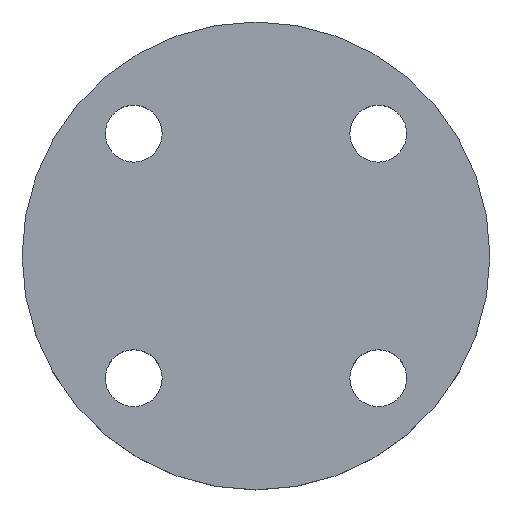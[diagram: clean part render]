
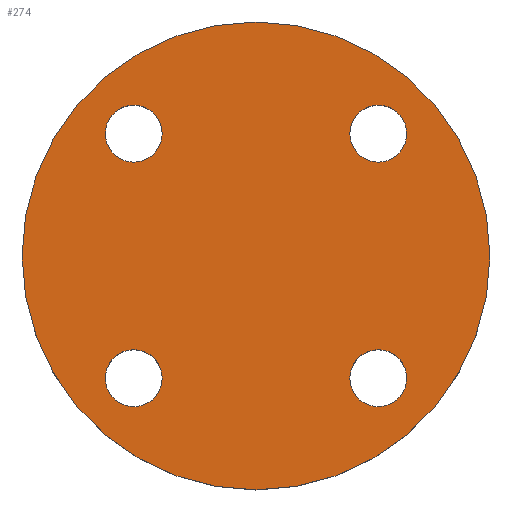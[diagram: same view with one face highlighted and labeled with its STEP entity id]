
A CAD part, top view. The second image highlights one B-rep face of the part: STEP entity #274.
In plain terms, the highlighted planar face has unit normal (0, 0, 1).
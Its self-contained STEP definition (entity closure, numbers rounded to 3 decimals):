
#3 = CIRCLE ( 'NONE', #5, 7. ) ;
#5 = AXIS2_PLACEMENT_3D ( 'NONE', #566, #567, #568 ) ;
#17 = AXIS2_PLACEMENT_3D ( 'NONE', #534, #535, #536 ) ;
#29 = CIRCLE ( 'NONE', #103, 7. ) ;
#47 = EDGE_CURVE ( 'NONE', #189, #183, #137, .T. ) ;
#52 = AXIS2_PLACEMENT_3D ( 'NONE', #432, #445, #446 ) ;
#53 = CIRCLE ( 'NONE', #52, 57.5 ) ;
#60 = EDGE_CURVE ( 'NONE', #242, #198, #444, .T. ) ;
#75 = CIRCLE ( 'NONE', #81, 7. ) ;
#81 = AXIS2_PLACEMENT_3D ( 'NONE', #95, #96, #98 ) ;
#87 = EDGE_CURVE ( 'NONE', #199, #319, #150, .T. ) ;
#95 = CARTESIAN_POINT ( 'NONE',  ( 30.052, 30.052, 0. ) ) ;
#96 = DIRECTION ( 'NONE',  ( 0., 0., -1. ) ) ;
#98 = DIRECTION ( 'NONE',  ( -1., 0., 0. ) ) ;
#103 = AXIS2_PLACEMENT_3D ( 'NONE', #420, #421, #422 ) ;
#133 = EDGE_CURVE ( 'NONE', #183, #189, #29, .T. ) ;
#137 = CIRCLE ( 'NONE', #256, 7. ) ;
#147 = EDGE_CURVE ( 'NONE', #334, #177, #53, .T. ) ;
#150 = CIRCLE ( 'NONE', #151, 7. ) ;
#151 = AXIS2_PLACEMENT_3D ( 'NONE', #407, #408, #409 ) ;
#153 = CIRCLE ( 'NONE', #17, 7. ) ;
#160 = AXIS2_PLACEMENT_3D ( 'NONE', #396, #397, #398 ) ;
#165 = AXIS2_PLACEMENT_3D ( 'NONE', #527, #528, #530 ) ;
#166 = AXIS2_PLACEMENT_3D ( 'NONE', #517, #518, #519 ) ;
#173 = CIRCLE ( 'NONE', #166, 57.5 ) ;
#177 = VERTEX_POINT ( 'NONE', #483 ) ;
#183 = VERTEX_POINT ( 'NONE', #485 ) ;
#189 = VERTEX_POINT ( 'NONE', #489 ) ;
#198 = VERTEX_POINT ( 'NONE', #494 ) ;
#199 = VERTEX_POINT ( 'NONE', #495 ) ;
#205 = AXIS2_PLACEMENT_3D ( 'NONE', #497, #498, #499 ) ;
#213 = EDGE_CURVE ( 'NONE', #342, #346, #214, .T. ) ;
#214 = CIRCLE ( 'NONE', #205, 7. ) ;
#242 = VERTEX_POINT ( 'NONE', #515 ) ;
#245 = EDGE_CURVE ( 'NONE', #177, #334, #173, .T. ) ;
#254 = ORIENTED_EDGE ( 'NONE', *, *, #213, .T. ) ;
#255 = ORIENTED_EDGE ( 'NONE', *, *, #288, .T. ) ;
#256 = AXIS2_PLACEMENT_3D ( 'NONE', #381, #382, #383 ) ;
#257 = ORIENTED_EDGE ( 'NONE', *, *, #133, .T. ) ;
#258 = ORIENTED_EDGE ( 'NONE', *, *, #47, .T. ) ;
#259 = ORIENTED_EDGE ( 'NONE', *, *, #369, .T. ) ;
#261 = ORIENTED_EDGE ( 'NONE', *, *, #87, .T. ) ;
#262 = ORIENTED_EDGE ( 'NONE', *, *, #60, .T. ) ;
#263 = ORIENTED_EDGE ( 'NONE', *, *, #529, .T. ) ;
#265 = ORIENTED_EDGE ( 'NONE', *, *, #147, .T. ) ;
#266 = ORIENTED_EDGE ( 'NONE', *, *, #245, .T. ) ;
#274 = ADVANCED_FACE ( 'NONE', ( #521, #522, #523, #524, #525 ), #526, .T. ) ;
#279 = EDGE_LOOP ( 'NONE', ( #265, #266 ) ) ;
#288 = EDGE_CURVE ( 'NONE', #346, #342, #153, .T. ) ;
#319 = VERTEX_POINT ( 'NONE', #548 ) ;
#321 = EDGE_LOOP ( 'NONE', ( #262, #263 ) ) ;
#334 = VERTEX_POINT ( 'NONE', #559 ) ;
#338 = EDGE_LOOP ( 'NONE', ( #259, #261 ) ) ;
#340 = EDGE_LOOP ( 'NONE', ( #257, #258 ) ) ;
#342 = VERTEX_POINT ( 'NONE', #564 ) ;
#343 = EDGE_LOOP ( 'NONE', ( #254, #255 ) ) ;
#346 = VERTEX_POINT ( 'NONE', #565 ) ;
#369 = EDGE_CURVE ( 'NONE', #319, #199, #3, .T. ) ;
#381 = CARTESIAN_POINT ( 'NONE',  ( -30.052, -30.052, 0. ) ) ;
#382 = DIRECTION ( 'NONE',  ( 0., 0., -1. ) ) ;
#383 = DIRECTION ( 'NONE',  ( -1., 0., 0. ) ) ;
#396 = CARTESIAN_POINT ( 'NONE',  ( 30.052, 30.052, 0. ) ) ;
#397 = DIRECTION ( 'NONE',  ( 0., 0., -1. ) ) ;
#398 = DIRECTION ( 'NONE',  ( -1., 0., 0. ) ) ;
#407 = CARTESIAN_POINT ( 'NONE',  ( -30.052, 30.052, 0. ) ) ;
#408 = DIRECTION ( 'NONE',  ( 0., 0., -1. ) ) ;
#409 = DIRECTION ( 'NONE',  ( -1., 0., 0. ) ) ;
#420 = CARTESIAN_POINT ( 'NONE',  ( -30.052, -30.052, 0. ) ) ;
#421 = DIRECTION ( 'NONE',  ( 0., 0., -1. ) ) ;
#422 = DIRECTION ( 'NONE',  ( -1., 0., 0. ) ) ;
#432 = CARTESIAN_POINT ( 'NONE',  ( 0., 0., 0. ) ) ;
#444 = CIRCLE ( 'NONE', #160, 7. ) ;
#445 = DIRECTION ( 'NONE',  ( 0., 0., 1. ) ) ;
#446 = DIRECTION ( 'NONE',  ( 1., 0., 0. ) ) ;
#483 = CARTESIAN_POINT ( 'NONE',  ( -57.5, 0., 0. ) ) ;
#485 = CARTESIAN_POINT ( 'NONE',  ( -23.052, -30.052, 0. ) ) ;
#489 = CARTESIAN_POINT ( 'NONE',  ( -37.052, -30.052, 0. ) ) ;
#494 = CARTESIAN_POINT ( 'NONE',  ( 23.052, 30.052, 0. ) ) ;
#495 = CARTESIAN_POINT ( 'NONE',  ( -37.052, 30.052, 0. ) ) ;
#497 = CARTESIAN_POINT ( 'NONE',  ( 30.052, -30.052, 0. ) ) ;
#498 = DIRECTION ( 'NONE',  ( 0., 0., -1. ) ) ;
#499 = DIRECTION ( 'NONE',  ( -1., 0., 0. ) ) ;
#515 = CARTESIAN_POINT ( 'NONE',  ( 37.052, 30.052, 0. ) ) ;
#517 = CARTESIAN_POINT ( 'NONE',  ( 0., 0., 0. ) ) ;
#518 = DIRECTION ( 'NONE',  ( 0., 0., 1. ) ) ;
#519 = DIRECTION ( 'NONE',  ( 1., 0., 0. ) ) ;
#521 = FACE_BOUND ( 'NONE', #343, .T. ) ;
#522 = FACE_BOUND ( 'NONE', #340, .T. ) ;
#523 = FACE_BOUND ( 'NONE', #338, .T. ) ;
#524 = FACE_BOUND ( 'NONE', #321, .T. ) ;
#525 = FACE_OUTER_BOUND ( 'NONE', #279, .T. ) ;
#526 = PLANE ( 'NONE',  #165 ) ;
#527 = CARTESIAN_POINT ( 'NONE',  ( 0., 0., 0. ) ) ;
#528 = DIRECTION ( 'NONE',  ( 0., 0., 1. ) ) ;
#529 = EDGE_CURVE ( 'NONE', #198, #242, #75, .T. ) ;
#530 = DIRECTION ( 'NONE',  ( 1., 0., 0. ) ) ;
#534 = CARTESIAN_POINT ( 'NONE',  ( 30.052, -30.052, 0. ) ) ;
#535 = DIRECTION ( 'NONE',  ( 0., 0., -1. ) ) ;
#536 = DIRECTION ( 'NONE',  ( -1., 0., 0. ) ) ;
#548 = CARTESIAN_POINT ( 'NONE',  ( -23.052, 30.052, 0. ) ) ;
#559 = CARTESIAN_POINT ( 'NONE',  ( 57.5, 0., 0. ) ) ;
#564 = CARTESIAN_POINT ( 'NONE',  ( 37.052, -30.052, 0. ) ) ;
#565 = CARTESIAN_POINT ( 'NONE',  ( 23.052, -30.052, 0. ) ) ;
#566 = CARTESIAN_POINT ( 'NONE',  ( -30.052, 30.052, 0. ) ) ;
#567 = DIRECTION ( 'NONE',  ( 0., 0., -1. ) ) ;
#568 = DIRECTION ( 'NONE',  ( -1., 0., 0. ) ) ;
